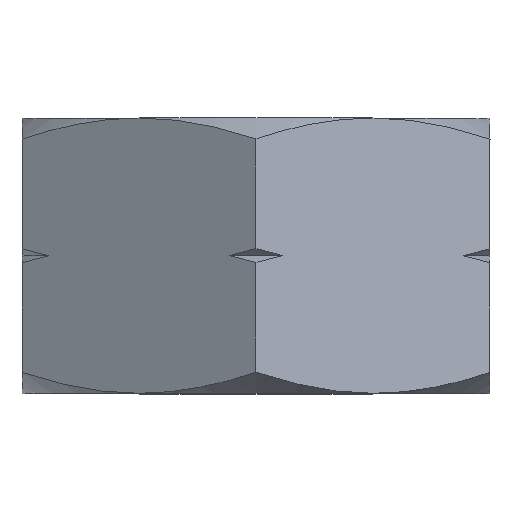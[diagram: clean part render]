
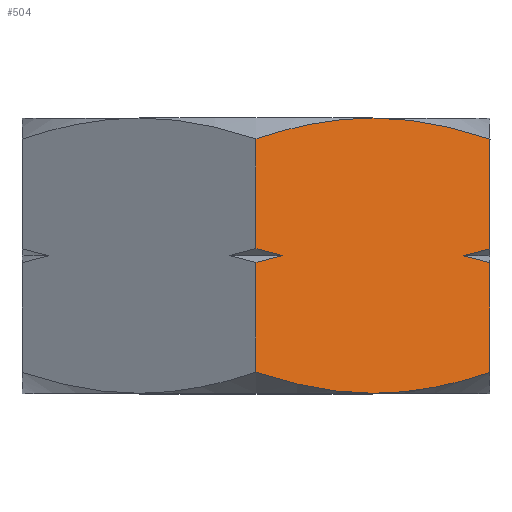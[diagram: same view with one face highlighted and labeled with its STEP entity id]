
A CAD part, top view. The second image highlights one B-rep face of the part: STEP entity #504.
In plain terms, the highlighted planar face has unit normal (0.5, 0, 0.866).
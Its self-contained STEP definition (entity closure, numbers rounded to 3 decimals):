
#65=FACE_OUTER_BOUND('',#98,.T.);
#98=EDGE_LOOP('',(#358,#359,#360,#361,#362,#363,#364,#365,#366,#367,#368,
#369));
#136=LINE('',#766,#148);
#137=LINE('',#776,#149);
#138=LINE('',#801,#150);
#139=LINE('',#811,#151);
#148=VECTOR('',#600,3.991);
#149=VECTOR('',#601,3.991);
#150=VECTOR('',#604,3.991);
#151=VECTOR('',#605,3.991);
#172=(
BOUNDED_CURVE()
B_SPLINE_CURVE(2,(#789,#790,#791),.UNSPECIFIED.,.F.,.F.)
B_SPLINE_CURVE_WITH_KNOTS((3,3),(0.,0.113),.UNSPECIFIED.)
CURVE()
GEOMETRIC_REPRESENTATION_ITEM()
RATIONAL_B_SPLINE_CURVE((1.,1.002,1.))
REPRESENTATION_ITEM('')
);
#173=(
BOUNDED_CURVE()
B_SPLINE_CURVE(2,(#793,#794,#795),.UNSPECIFIED.,.F.,.F.)
B_SPLINE_CURVE_WITH_KNOTS((3,3),(0.498,0.996),
 .UNSPECIFIED.)
CURVE()
GEOMETRIC_REPRESENTATION_ITEM()
RATIONAL_B_SPLINE_CURVE((1.,1.038,1.))
REPRESENTATION_ITEM('')
);
#174=(
BOUNDED_CURVE()
B_SPLINE_CURVE(2,(#797,#798,#799),.UNSPECIFIED.,.F.,.F.)
B_SPLINE_CURVE_WITH_KNOTS((3,3),(0.,0.498),.UNSPECIFIED.)
CURVE()
GEOMETRIC_REPRESENTATION_ITEM()
RATIONAL_B_SPLINE_CURVE((1.,1.038,1.))
REPRESENTATION_ITEM('')
);
#175=(
BOUNDED_CURVE()
B_SPLINE_CURVE(2,(#803,#804,#805),.UNSPECIFIED.,.F.,.F.)
B_SPLINE_CURVE_WITH_KNOTS((3,3),(0.,0.113),.UNSPECIFIED.)
CURVE()
GEOMETRIC_REPRESENTATION_ITEM()
RATIONAL_B_SPLINE_CURVE((1.,1.002,1.))
REPRESENTATION_ITEM('')
);
#176=(
BOUNDED_CURVE()
B_SPLINE_CURVE(2,(#807,#808,#809),.UNSPECIFIED.,.F.,.F.)
B_SPLINE_CURVE_WITH_KNOTS((3,3),(0.,0.113),.UNSPECIFIED.)
CURVE()
GEOMETRIC_REPRESENTATION_ITEM()
RATIONAL_B_SPLINE_CURVE((1.,1.002,1.))
REPRESENTATION_ITEM('')
);
#177=(
BOUNDED_CURVE()
B_SPLINE_CURVE(2,(#813,#814,#815),.UNSPECIFIED.,.F.,.F.)
B_SPLINE_CURVE_WITH_KNOTS((3,3),(0.498,0.996),
 .UNSPECIFIED.)
CURVE()
GEOMETRIC_REPRESENTATION_ITEM()
RATIONAL_B_SPLINE_CURVE((1.,1.038,1.))
REPRESENTATION_ITEM('')
);
#178=(
BOUNDED_CURVE()
B_SPLINE_CURVE(2,(#816,#817,#818),.UNSPECIFIED.,.F.,.F.)
B_SPLINE_CURVE_WITH_KNOTS((3,3),(0.,0.498),.UNSPECIFIED.)
CURVE()
GEOMETRIC_REPRESENTATION_ITEM()
RATIONAL_B_SPLINE_CURVE((1.,1.038,1.))
REPRESENTATION_ITEM('')
);
#179=(
BOUNDED_CURVE()
B_SPLINE_CURVE(2,(#819,#820,#821),.UNSPECIFIED.,.F.,.F.)
B_SPLINE_CURVE_WITH_KNOTS((3,3),(0.,0.113),.UNSPECIFIED.)
CURVE()
GEOMETRIC_REPRESENTATION_ITEM()
RATIONAL_B_SPLINE_CURVE((1.,1.002,1.))
REPRESENTATION_ITEM('')
);
#218=VERTEX_POINT('',#761);
#219=VERTEX_POINT('',#765);
#221=VERTEX_POINT('',#771);
#222=VERTEX_POINT('',#775);
#224=VERTEX_POINT('',#788);
#225=VERTEX_POINT('',#792);
#226=VERTEX_POINT('',#796);
#227=VERTEX_POINT('',#800);
#228=VERTEX_POINT('',#802);
#229=VERTEX_POINT('',#806);
#230=VERTEX_POINT('',#810);
#231=VERTEX_POINT('',#812);
#269=EDGE_CURVE('',#219,#218,#136,.T.);
#272=EDGE_CURVE('',#222,#221,#137,.T.);
#276=EDGE_CURVE('',#219,#224,#172,.T.);
#277=EDGE_CURVE('',#225,#218,#173,.T.);
#278=EDGE_CURVE('',#226,#225,#174,.T.);
#279=EDGE_CURVE('',#227,#226,#138,.T.);
#280=EDGE_CURVE('',#228,#227,#175,.T.);
#281=EDGE_CURVE('',#229,#228,#176,.T.);
#282=EDGE_CURVE('',#230,#229,#139,.T.);
#283=EDGE_CURVE('',#231,#230,#177,.T.);
#284=EDGE_CURVE('',#222,#231,#178,.T.);
#285=EDGE_CURVE('',#224,#221,#179,.T.);
#358=ORIENTED_EDGE('',*,*,#276,.F.);
#359=ORIENTED_EDGE('',*,*,#269,.T.);
#360=ORIENTED_EDGE('',*,*,#277,.F.);
#361=ORIENTED_EDGE('',*,*,#278,.F.);
#362=ORIENTED_EDGE('',*,*,#279,.F.);
#363=ORIENTED_EDGE('',*,*,#280,.F.);
#364=ORIENTED_EDGE('',*,*,#281,.F.);
#365=ORIENTED_EDGE('',*,*,#282,.F.);
#366=ORIENTED_EDGE('',*,*,#283,.F.);
#367=ORIENTED_EDGE('',*,*,#284,.F.);
#368=ORIENTED_EDGE('',*,*,#272,.T.);
#369=ORIENTED_EDGE('',*,*,#285,.F.);
#496=PLANE('',#539);
#504=ADVANCED_FACE('',(#65),#496,.T.);
#539=AXIS2_PLACEMENT_3D('',#787,#602,#603);
#600=DIRECTION('',(0.,1.,0.));
#601=DIRECTION('',(0.,1.,0.));
#602=DIRECTION('center_axis',(0.5,0.,0.866));
#603=DIRECTION('ref_axis',(0.866,0.,-0.5));
#604=DIRECTION('',(0.,1.,0.));
#605=DIRECTION('',(0.,1.,0.));
#761=CARTESIAN_POINT('',(8.5,9.241,4.907));
#765=CARTESIAN_POINT('',(8.5,5.25,4.907));
#766=CARTESIAN_POINT('',(8.5,7.245,4.907));
#771=CARTESIAN_POINT('',(8.5,4.75,4.907));
#775=CARTESIAN_POINT('',(8.5,0.759,4.907));
#776=CARTESIAN_POINT('',(8.5,2.755,4.907));
#787=CARTESIAN_POINT('Origin',(0.,0.,9.815));
#788=CARTESIAN_POINT('',(7.55,5.,5.456));
#789=CARTESIAN_POINT('Ctrl Pts',(8.5,5.25,4.907));
#790=CARTESIAN_POINT('Ctrl Pts',(8.012,5.109,5.189));
#791=CARTESIAN_POINT('Ctrl Pts',(7.55,5.,5.456));
#792=CARTESIAN_POINT('',(4.25,10.,7.361));
#793=CARTESIAN_POINT('Ctrl Pts',(4.25,10.,7.361));
#794=CARTESIAN_POINT('Ctrl Pts',(6.222,10.,6.222));
#795=CARTESIAN_POINT('Ctrl Pts',(8.5,9.241,4.907));
#796=CARTESIAN_POINT('',(0.,9.241,9.815));
#797=CARTESIAN_POINT('Ctrl Pts',(0.,9.241,
9.815));
#798=CARTESIAN_POINT('Ctrl Pts',(2.278,10.,8.5));
#799=CARTESIAN_POINT('Ctrl Pts',(4.25,10.,7.361));
#800=CARTESIAN_POINT('',(0.,5.25,9.815));
#801=CARTESIAN_POINT('',(0.,7.245,9.815));
#802=CARTESIAN_POINT('',(0.95,5.,9.266));
#803=CARTESIAN_POINT('Ctrl Pts',(0.95,5.,9.266));
#804=CARTESIAN_POINT('Ctrl Pts',(0.488,5.109,9.533));
#805=CARTESIAN_POINT('Ctrl Pts',(0.,5.25,
9.815));
#806=CARTESIAN_POINT('',(0.,4.75,9.815));
#807=CARTESIAN_POINT('Ctrl Pts',(0.,4.75,9.815));
#808=CARTESIAN_POINT('Ctrl Pts',(0.488,4.891,9.533));
#809=CARTESIAN_POINT('Ctrl Pts',(0.95,5.,9.266));
#810=CARTESIAN_POINT('',(0.,0.759,9.815));
#811=CARTESIAN_POINT('',(0.,2.755,9.815));
#812=CARTESIAN_POINT('',(4.25,0.,7.361));
#813=CARTESIAN_POINT('Ctrl Pts',(4.25,0.,7.361));
#814=CARTESIAN_POINT('Ctrl Pts',(2.278,0.,
8.5));
#815=CARTESIAN_POINT('Ctrl Pts',(0.,0.759,
9.815));
#816=CARTESIAN_POINT('Ctrl Pts',(8.5,0.759,4.907));
#817=CARTESIAN_POINT('Ctrl Pts',(6.222,0.,
6.222));
#818=CARTESIAN_POINT('Ctrl Pts',(4.25,0.,7.361));
#819=CARTESIAN_POINT('Ctrl Pts',(7.55,5.,5.456));
#820=CARTESIAN_POINT('Ctrl Pts',(8.012,4.891,5.189));
#821=CARTESIAN_POINT('Ctrl Pts',(8.5,4.75,4.907));
